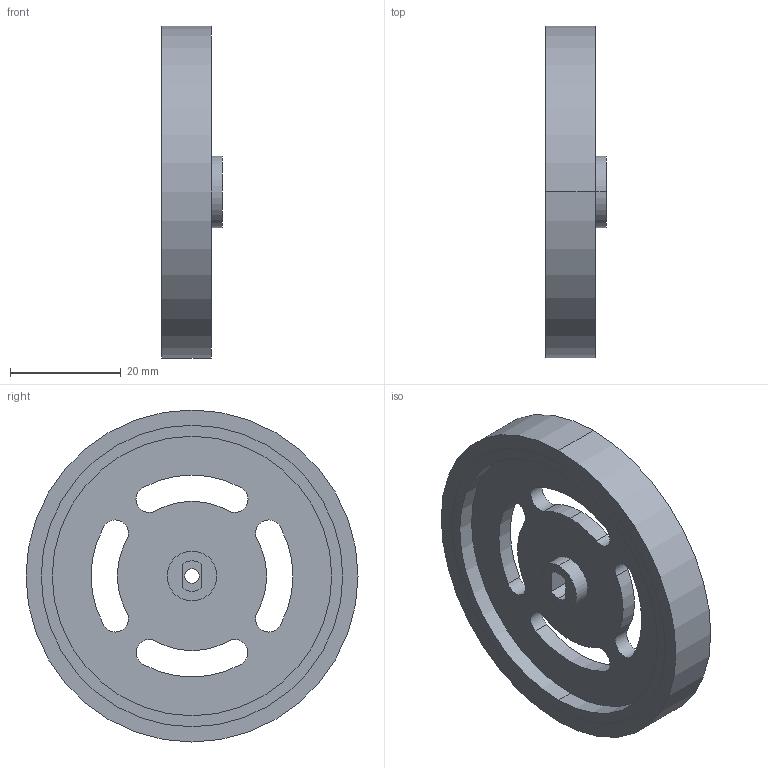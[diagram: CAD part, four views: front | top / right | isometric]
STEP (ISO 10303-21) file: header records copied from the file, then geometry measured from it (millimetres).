
FILE_DESCRIPTION (( 'STEP AP214' ), '1' );
FILE_NAME ('Llanta azul.STEP', '2014-06-30T22:02:39', ( '' ), ( '' ), 'SwSTEP 2.0', 'SolidWorks 2013', '' );
FILE_SCHEMA (( 'AUTOMOTIVE_DESIGN' ));
Length unit declared in the file: millimetre
Products named in the file (1): Llanta azul
Bounding box: 10.9 x 60 x 60 mm (x, y, z)
Volume: 12743.5 mm3; surface area: 8501.4 mm2
Topology: 1 solids, 1 shells, 55 faces, 135 edges, 90 vertices
Faces by surface type: cylinder 43, plane 12
Entity records: 2191 total; most frequent: DIRECTION 333, CARTESIAN_POINT 281, ORIENTED_EDGE 270, AXIS2_PLACEMENT_3D 142, EDGE_CURVE 135, VERTEX_POINT 90, CIRCLE 86, EDGE_LOOP 73
